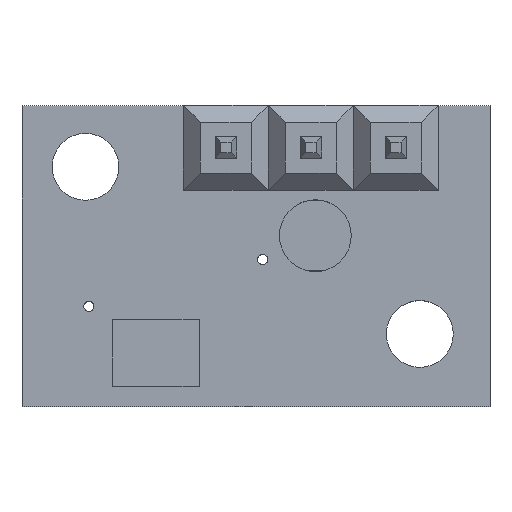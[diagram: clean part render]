
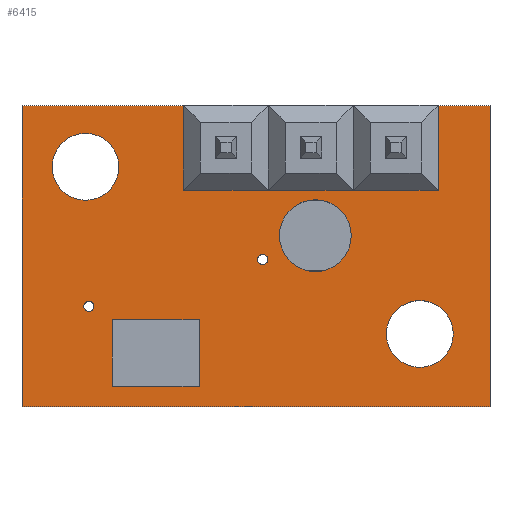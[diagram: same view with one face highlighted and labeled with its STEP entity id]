
A CAD part, top view. The second image highlights one B-rep face of the part: STEP entity #6415.
In plain terms, the highlighted planar face has unit normal (0, 0, 1).
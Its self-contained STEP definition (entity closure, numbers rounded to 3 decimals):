
#445=FACE_BOUND('',#1067,.T.);
#446=FACE_BOUND('',#1068,.T.);
#447=FACE_BOUND('',#1069,.T.);
#448=FACE_BOUND('',#1070,.T.);
#449=FACE_BOUND('',#1071,.T.);
#450=FACE_BOUND('',#1072,.T.);
#451=FACE_BOUND('',#1073,.T.);
#452=FACE_BOUND('',#1074,.T.);
#486=PLANE('',#6886);
#687=FACE_OUTER_BOUND('',#1066,.T.);
#1066=EDGE_LOOP('',(#4220,#4221,#4222,#4223));
#1067=EDGE_LOOP('',(#4224));
#1068=EDGE_LOOP('',(#4225));
#1069=EDGE_LOOP('',(#4226));
#1070=EDGE_LOOP('',(#4227));
#1071=EDGE_LOOP('',(#4228));
#1072=EDGE_LOOP('',(#4229));
#1073=EDGE_LOOP('',(#4230));
#1074=EDGE_LOOP('',(#4231));
#1480=LINE('',#8525,#2066);
#1483=LINE('',#8531,#2069);
#1486=LINE('',#8537,#2072);
#1489=LINE('',#8541,#2075);
#2066=VECTOR('',#7263,10.);
#2069=VECTOR('',#7268,10.);
#2072=VECTOR('',#7273,10.);
#2075=VECTOR('',#7278,10.);
#2643=CIRCLE('',#6860,0.508);
#2645=CIRCLE('',#6863,0.15);
#2647=CIRCLE('',#6866,0.15);
#2649=CIRCLE('',#6869,1.075);
#2651=CIRCLE('',#6872,0.508);
#2653=CIRCLE('',#6875,0.508);
#2654=CIRCLE('',#6877,1.);
#2656=CIRCLE('',#6880,1.);
#2707=VERTEX_POINT('',#8473);
#2709=VERTEX_POINT('',#8479);
#2711=VERTEX_POINT('',#8485);
#2713=VERTEX_POINT('',#8491);
#2715=VERTEX_POINT('',#8497);
#2717=VERTEX_POINT('',#8503);
#2718=VERTEX_POINT('',#8507);
#2720=VERTEX_POINT('',#8513);
#2724=VERTEX_POINT('',#8522);
#2725=VERTEX_POINT('',#8524);
#2727=VERTEX_POINT('',#8530);
#2729=VERTEX_POINT('',#8536);
#3268=EDGE_CURVE('',#2707,#2707,#2643,.T.);
#3271=EDGE_CURVE('',#2709,#2709,#2645,.T.);
#3274=EDGE_CURVE('',#2711,#2711,#2647,.T.);
#3277=EDGE_CURVE('',#2713,#2713,#2649,.T.);
#3280=EDGE_CURVE('',#2715,#2715,#2651,.T.);
#3283=EDGE_CURVE('',#2717,#2717,#2653,.T.);
#3284=EDGE_CURVE('',#2718,#2718,#2654,.T.);
#3287=EDGE_CURVE('',#2720,#2720,#2656,.T.);
#3292=EDGE_CURVE('',#2725,#2724,#1480,.T.);
#3295=EDGE_CURVE('',#2727,#2725,#1483,.T.);
#3298=EDGE_CURVE('',#2729,#2727,#1486,.T.);
#3301=EDGE_CURVE('',#2724,#2729,#1489,.T.);
#4220=ORIENTED_EDGE('',*,*,#3301,.T.);
#4221=ORIENTED_EDGE('',*,*,#3298,.T.);
#4222=ORIENTED_EDGE('',*,*,#3295,.T.);
#4223=ORIENTED_EDGE('',*,*,#3292,.T.);
#4224=ORIENTED_EDGE('',*,*,#3268,.T.);
#4225=ORIENTED_EDGE('',*,*,#3271,.T.);
#4226=ORIENTED_EDGE('',*,*,#3274,.T.);
#4227=ORIENTED_EDGE('',*,*,#3277,.T.);
#4228=ORIENTED_EDGE('',*,*,#3280,.T.);
#4229=ORIENTED_EDGE('',*,*,#3283,.T.);
#4230=ORIENTED_EDGE('',*,*,#3287,.T.);
#4231=ORIENTED_EDGE('',*,*,#3284,.T.);
#6415=ADVANCED_FACE('',(#687,#445,#446,#447,#448,#449,#450,#451,#452),#486,
 .T.);
#6860=AXIS2_PLACEMENT_3D('',#8475,#7208,#7209);
#6863=AXIS2_PLACEMENT_3D('',#8481,#7215,#7216);
#6866=AXIS2_PLACEMENT_3D('',#8487,#7222,#7223);
#6869=AXIS2_PLACEMENT_3D('',#8493,#7229,#7230);
#6872=AXIS2_PLACEMENT_3D('',#8499,#7236,#7237);
#6875=AXIS2_PLACEMENT_3D('',#8505,#7243,#7244);
#6877=AXIS2_PLACEMENT_3D('',#8508,#7247,#7248);
#6880=AXIS2_PLACEMENT_3D('',#8514,#7254,#7255);
#6886=AXIS2_PLACEMENT_3D('',#8542,#7279,#7280);
#7208=DIRECTION('center_axis',(0.,0.,-1.));
#7209=DIRECTION('ref_axis',(1.,0.,0.));
#7215=DIRECTION('center_axis',(0.,0.,-1.));
#7216=DIRECTION('ref_axis',(1.,0.,0.));
#7222=DIRECTION('center_axis',(0.,0.,-1.));
#7223=DIRECTION('ref_axis',(1.,0.,0.));
#7229=DIRECTION('center_axis',(0.,0.,-1.));
#7230=DIRECTION('ref_axis',(-1.,0.,0.));
#7236=DIRECTION('center_axis',(0.,0.,-1.));
#7237=DIRECTION('ref_axis',(1.,0.,0.));
#7243=DIRECTION('center_axis',(0.,0.,-1.));
#7244=DIRECTION('ref_axis',(1.,0.,0.));
#7247=DIRECTION('center_axis',(0.,0.,-1.));
#7248=DIRECTION('ref_axis',(1.,0.,0.));
#7254=DIRECTION('center_axis',(0.,0.,-1.));
#7255=DIRECTION('ref_axis',(1.,0.,0.));
#7263=DIRECTION('',(-1.,0.,0.));
#7268=DIRECTION('',(0.,1.,0.));
#7273=DIRECTION('',(1.,0.,0.));
#7278=DIRECTION('',(0.,-1.,0.));
#7279=DIRECTION('center_axis',(0.,0.,1.));
#7280=DIRECTION('ref_axis',(1.,0.,0.));
#8473=CARTESIAN_POINT('',(8.163,7.866,1.57));
#8475=CARTESIAN_POINT('Origin',(8.671,7.866,1.57));
#8479=CARTESIAN_POINT('',(7.05,4.4,1.57));
#8481=CARTESIAN_POINT('Origin',(7.2,4.4,1.57));
#8485=CARTESIAN_POINT('',(1.85,3.,1.57));
#8487=CARTESIAN_POINT('Origin',(2.,3.,1.57));
#8491=CARTESIAN_POINT('',(9.85,5.112,1.57));
#8493=CARTESIAN_POINT('Origin',(8.775,5.112,1.57));
#8497=CARTESIAN_POINT('',(10.703,7.612,1.57));
#8499=CARTESIAN_POINT('Origin',(11.211,7.612,1.57));
#8503=CARTESIAN_POINT('',(5.623,7.612,1.57));
#8505=CARTESIAN_POINT('Origin',(6.131,7.612,1.57));
#8507=CARTESIAN_POINT('',(0.9,7.173,1.57));
#8508=CARTESIAN_POINT('Origin',(1.9,7.173,1.57));
#8513=CARTESIAN_POINT('',(10.9,2.173,1.57));
#8514=CARTESIAN_POINT('Origin',(11.9,2.173,1.57));
#8522=CARTESIAN_POINT('',(0.,9.,1.57));
#8524=CARTESIAN_POINT('',(14.,9.,1.57));
#8525=CARTESIAN_POINT('',(14.,9.,1.57));
#8530=CARTESIAN_POINT('',(14.,0.,1.57));
#8531=CARTESIAN_POINT('',(14.,0.,1.57));
#8536=CARTESIAN_POINT('',(0.,0.,1.57));
#8537=CARTESIAN_POINT('',(0.,0.,1.57));
#8541=CARTESIAN_POINT('',(0.,9.,1.57));
#8542=CARTESIAN_POINT('Origin',(7.,4.5,1.57));
